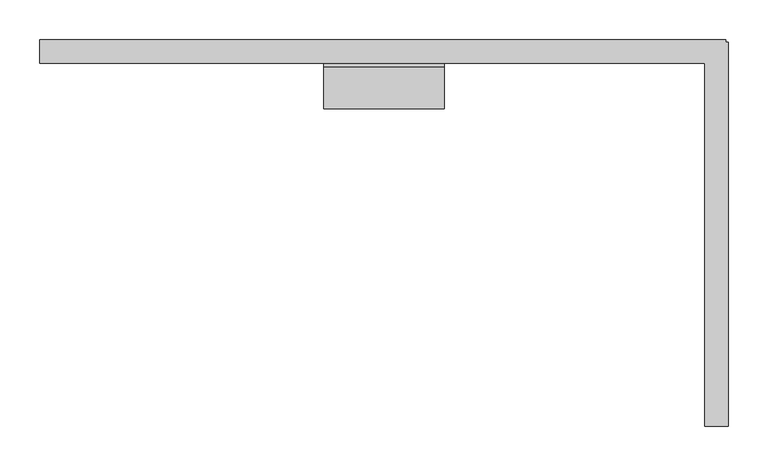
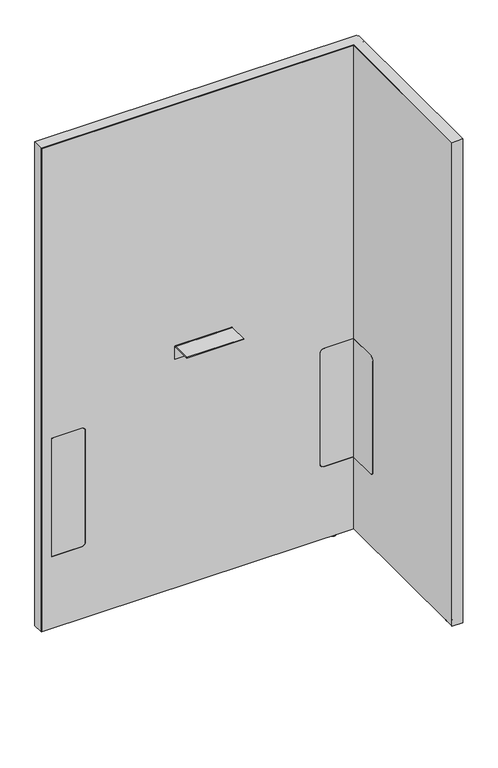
"""IFC4 building model written with IfcOpenShell, lengths in millimetres: furniture geometry, Steelcase - Answer Solution - Boundary Screen - L Return - Single Sided : 54H x 33W."""

import ifcopenshell
import ifcopenshell.guid

model = None  # the IFC model being written
_history = None  # IfcOwnerHistory: only IFC2X3 demands one
_inside = {}  # id of a spatial element -> (the spatial element, [elements in it])
_under = {}  # id of a project, library or spatial element -> (it, [spatial elements below it])
_declared = {}  # id of a project -> (the project, [libraries it declares])
_typed = {}  # id of a type object -> (the type object, [elements of that type])
_made_of = {}  # id of a material, layer set ... -> (it, [elements and type objects made of it])


def new_model(schema):
    """Start an empty IFC model of exactly this schema.

    Asked for "IFC4X3", IfcOpenShell would pick the latest addendum, in which some entities
    have other attributes; the version numbers below select the first issue.
    IFC2X3 requires an IfcOwnerHistory on every rooted entity: one is made here for all.
    """
    global model, _history
    if schema == "IFC4X3":
        model = ifcopenshell.file(schema_version=(4, 3, 0, 0))
    else:
        model = ifcopenshell.file(schema=schema)
    _inside.clear()
    _under.clear()
    _declared.clear()
    _typed.clear()
    _made_of.clear()
    _history = None
    if model.schema == "IFC2X3":
        org = make("IfcOrganization", Name="unknown")
        user = make(
            "IfcPersonAndOrganization",
            ThePerson=make("IfcPerson", FamilyName="unknown"),
            TheOrganization=org,
        )
        app = make(
            "IfcApplication",
            ApplicationDeveloper=org,
            Version="unknown",
            ApplicationFullName="unknown",
            ApplicationIdentifier="unknown",
        )
        _history = make(
            "IfcOwnerHistory",
            OwningUser=user,
            OwningApplication=app,
            ChangeAction="ADDED",
            CreationDate=0,
        )
    return model


def make(cls, **values):
    """One entity of the class cls with the attributes given. An attribute that is None is left unset."""
    return model.create_entity(
        cls, **{name: value for name, value in values.items() if value is not None}
    )


def rooted(cls, **values):
    """An entity with a GlobalId (a new one), such as an element, a storey or a relation."""
    return make(cls, GlobalId=ifcopenshell.guid.new(), OwnerHistory=_history, **values)


def si_unit(unit_type, name, prefix=None):
    """IfcSIUnit, for example si_unit("LENGTHUNIT", "METRE", prefix="MILLI")."""
    return make("IfcSIUnit", UnitType=unit_type, Prefix=prefix, Name=name)


def assignment(units):
    """IfcUnitAssignment: the units of a project."""
    return None if units is None else make("IfcUnitAssignment", Units=units)


def point(xyz):
    """IfcCartesianPoint."""
    return None if xyz is None else make("IfcCartesianPoint", Coordinates=xyz)


def direction(xyz):
    """IfcDirection."""
    return None if xyz is None else make("IfcDirection", DirectionRatios=xyz)


def frame(location, z_axis=None, x_axis=None):
    """IfcAxis2Placement3D, a coordinate frame: its origin and axes. An axis left out is left unset."""
    return make(
        "IfcAxis2Placement3D",
        Location=point(location),
        Axis=direction(z_axis),
        RefDirection=direction(x_axis),
    )


def frame_2d(location, x_axis=None):
    """IfcAxis2Placement2D, a coordinate frame in the plane: its origin and x axis."""
    return make(
        "IfcAxis2Placement2D", Location=point(location), RefDirection=direction(x_axis)
    )


def origin():
    """The frame at (0, 0, 0) with its axes left unset."""
    return frame((0.0, 0.0, 0.0))


def place(relative_to, where):
    """IfcLocalPlacement: puts the frame where relative to a parent placement (None: the world)."""
    return make(
        "IfcLocalPlacement", PlacementRelTo=relative_to, RelativePlacement=where
    )


def context(
    kind, dimensions, precision=None, world=None, true_north=None, identifier=None
):
    """IfcGeometricRepresentationContext, for example the 3D "Model" context."""
    return make(
        "IfcGeometricRepresentationContext",
        ContextIdentifier=identifier,
        ContextType=kind,
        CoordinateSpaceDimension=dimensions,
        Precision=precision,
        WorldCoordinateSystem=world,
        TrueNorth=true_north,
    )


def project(units=None, contexts=None):
    """IfcProject with its units and contexts."""
    return rooted(
        "IfcProject",
        Name="project",
        RepresentationContexts=contexts,
        UnitsInContext=assignment(units),
    )


def spatial(cls, under=None, at=None, **own):
    """A site, building, storey or space (cls), placed at a placement, below another one or the project."""
    s = rooted(cls, ObjectPlacement=at, **own)
    if under is not None:
        _under.setdefault(under.id(), (under, []))[1].append(s)
    return s


def polyline(points):
    """IfcPolyline through the points."""
    return make("IfcPolyline", Points=[point(p) for p in points])


def circle_curve(where, radius):
    """IfcCircle in the frame where."""
    return make("IfcCircle", Position=where, Radius=radius)


def ellipse_curve(where, semi_axis1, semi_axis2):
    """IfcEllipse in the frame where."""
    return make(
        "IfcEllipse", Position=where, SemiAxis1=semi_axis1, SemiAxis2=semi_axis2
    )


def trimmed(basis, trim1, trim2, sense, master):
    """IfcTrimmedCurve: the piece of a basis curve between two trims."""
    return make(
        "IfcTrimmedCurve",
        BasisCurve=basis,
        Trim1=trim1,
        Trim2=trim2,
        SenseAgreement=sense,
        MasterRepresentation=master,
    )


def segment(curve, same_sense, transition):
    """IfcCompositeCurveSegment."""
    return make(
        "IfcCompositeCurveSegment",
        Transition=transition,
        SameSense=same_sense,
        ParentCurve=curve,
    )


def composite_curve(segments, self_intersect=None):
    """IfcCompositeCurve: segments joined end to end."""
    return make("IfcCompositeCurve", Segments=segments, SelfIntersect=self_intersect)


def outline(outer, holes=None, kind="AREA"):
    """IfcArbitraryClosedProfileDef: a profile drawn as a closed curve; with holes, ...WithVoids."""
    if holes is None:
        return make("IfcArbitraryClosedProfileDef", ProfileType=kind, OuterCurve=outer)
    return make(
        "IfcArbitraryProfileDefWithVoids",
        ProfileType=kind,
        OuterCurve=outer,
        InnerCurves=holes,
    )


def extrude(swept, where, along, depth):
    """IfcExtrudedAreaSolid: the profile swept, set in the frame where, extruded along a direction by depth."""
    return make(
        "IfcExtrudedAreaSolid",
        SweptArea=swept,
        Position=where,
        ExtrudedDirection=direction(along),
        Depth=depth,
    )


def faces_of(points, faces, orient=None, outer=None):
    """IfcFace entities. A face is a list of loops; a loop is a list of indices into points, from 0.

    orient and outer hold one flag for each loop. By default every Orientation is true, the
    first loop of a face is its IfcFaceOuterBound and the others are IfcFaceBound.
    """
    made = []
    for i, loops in enumerate(faces):
        bounds = []
        for j, loop in enumerate(loops):
            is_outer = j == 0 if outer is None else outer[i][j]
            bounds.append(
                make(
                    "IfcFaceOuterBound" if is_outer else "IfcFaceBound",
                    Bound=make("IfcPolyLoop", Polygon=[points[k] for k in loop]),
                    Orientation=True if orient is None else orient[i][j],
                )
            )
        made.append(make("IfcFace", Bounds=bounds))
    return made


def faceted_brep(points, faces, orient=None, outer=None, voids=None):
    """IfcFacetedBrep: a solid bounded by flat faces; with voids (closed shells), ...WithVoids."""
    shared = [point(p) for p in points]
    hull = make("IfcClosedShell", CfsFaces=faces_of(shared, faces, orient, outer))
    if voids is None:
        return make("IfcFacetedBrep", Outer=hull)
    return make(
        "IfcFacetedBrepWithVoids",
        Outer=hull,
        Voids=[
            make(cls, CfsFaces=faces_of(shared, fs, o, b)) for cls, fs, o, b in voids
        ],
    )


def shape(context_of_items, identifier, shape_type, items):
    """IfcShapeRepresentation: the items that make up one representation, for example the "Body"."""
    return make(
        "IfcShapeRepresentation",
        ContextOfItems=context_of_items,
        RepresentationIdentifier=identifier,
        RepresentationType=shape_type,
        Items=items,
    )


def source(mapping_origin, context_of_items, identifier, shape_type, items):
    """IfcRepresentationMap: a shape defined once, which mapped items show again and again."""
    return make(
        "IfcRepresentationMap",
        MappingOrigin=mapping_origin,
        MappedRepresentation=shape(context_of_items, identifier, shape_type, items),
    )


def transform(
    local_origin,
    x_axis=None,
    y_axis=None,
    z_axis=None,
    scale=None,
    scale2=None,
    scale3=None,
    uniform=True,
):
    """IfcCartesianTransformationOperator3D, or its non-uniform kind. x_axis, y_axis, z_axis: its Axis1, 2, 3."""
    if uniform:
        return make(
            "IfcCartesianTransformationOperator3D",
            Axis1=direction(x_axis),
            Axis2=direction(y_axis),
            LocalOrigin=point(local_origin),
            Scale=scale,
            Axis3=direction(z_axis),
        )
    return make(
        "IfcCartesianTransformationOperator3DnonUniform",
        Axis1=direction(x_axis),
        Axis2=direction(y_axis),
        LocalOrigin=point(local_origin),
        Scale=scale,
        Axis3=direction(z_axis),
        Scale2=scale2,
        Scale3=scale3,
    )


def mapped(mapping_source, mapping_target):
    """IfcMappedItem: shows the shape of a source again, moved by a transform."""
    return make(
        "IfcMappedItem", MappingSource=mapping_source, MappingTarget=mapping_target
    )


def made_of(thing, what):
    """Note that an element or type object is made of a material, layer set ...; save() writes the relation."""
    if what is not None:
        _made_of.setdefault(what.id(), (what, []))[1].append(thing)
    return thing


def element(
    cls,
    number,
    at=None,
    inside=None,
    cuts=None,
    type_object=None,
    material=None,
    context=None,
    identifier="Body",
    shape_type=None,
    held_by="IfcProductDefinitionShape",
    body=None,
    shapes=None,
    **own,
):
    """One element of the class cls, such as IfcWall. Its Tag is "e" and its number.

    at: its placement. inside: the storey or other place that contains it. cuts: it is an
    opening in that element (IfcRelVoidsElement). A single representation is given by context,
    identifier, shape_type and body (its items); several are given by shapes. held_by: the class
    of the entity that holds the representations. save() writes the other relations.
    """
    e = rooted(cls, Tag="e%d" % number, ObjectPlacement=at, **own)
    if body is not None:
        shapes = [shape(context, identifier, shape_type, body)]
    if shapes is not None:
        e.Representation = make(held_by, Representations=shapes)
    if inside is not None:
        _inside.setdefault(inside.id(), (inside, []))[1].append(e)
    if cuts is not None:
        rooted(
            "IfcRelVoidsElement", RelatingBuildingElement=cuts, RelatedOpeningElement=e
        )
    if type_object is not None:
        _typed.setdefault(type_object.id(), (type_object, []))[1].append(e)
    return made_of(e, material)


def aggregate(whole, parts):
    """IfcRelAggregates: a whole, such as a stair, and the parts it consists of."""
    return rooted("IfcRelAggregates", RelatingObject=whole, RelatedObjects=parts)


def save(model, path):
    """Write the relations noted so far, then the file.

    IfcRelAggregates (storeys below a building ...), IfcRelContainedInSpatialStructure (elements
    in a storey), IfcRelDefinesByType, IfcRelAssociatesMaterial and IfcRelDeclares: one each for
    every whole, place, type object, material and project.
    """
    for whole, parts in _under.values():
        aggregate(whole, parts)
    for where, things in _inside.values():
        rooted(
            "IfcRelContainedInSpatialStructure",
            RelatedElements=things,
            RelatingStructure=where,
        )
    for kind, things in _typed.values():
        rooted("IfcRelDefinesByType", RelatedObjects=things, RelatingType=kind)
    for what, things in _made_of.values():
        rooted("IfcRelAssociatesMaterial", RelatedObjects=things, RelatingMaterial=what)
    for by, libraries in _declared.values():
        rooted("IfcRelDeclares", RelatingContext=by, RelatedDefinitions=libraries)
    model.write(path)


def plane_surface(at):
    """IfcPlane: the flat surface through the origin of the frame at, square to its z axis."""
    return make("IfcPlane", Position=at)


def cylinder_surface(at, radius):
    """IfcCylindricalSurface: all points at the distance radius from the z axis of the frame at."""
    return make("IfcCylindricalSurface", Position=at, Radius=radius)


def revolved_surface(curve, axis_point, axis_direction):
    """IfcSurfaceOfRevolution: the curve turned about the line through axis_point along axis_direction."""
    return make(
        "IfcSurfaceOfRevolution",
        SweptCurve=make("IfcArbitraryOpenProfileDef", ProfileType="CURVE", Curve=curve),
        AxisPosition=make("IfcAxis1Placement", Location=point(axis_point), Axis=direction(axis_direction)),
    )


def advanced_brep(points, edges, surfaces, faces):
    """IfcAdvancedBrep: a solid bounded by faces that lie on surfaces and meet in shared edges.

    An edge is (start, end): straight between two places in points (the first is 0);
    or (start, end, curve); or (start, end, curve, False) where it runs against its curve.
    A face is (place in surfaces, loops), or (place, loops, False) where it looks against
    its surface's normal. A loop lists edges by number (the first is 1), with a minus sign
    where the edge is run from its end to its start. The first loop is the outer one.
    """
    corners = [point(p) for p in points]
    vertices = [make("IfcVertexPoint", VertexGeometry=c) for c in corners]
    made = []
    for start, end, *more in edges:
        made.append(
            make(
                "IfcEdgeCurve",
                EdgeStart=vertices[start],
                EdgeEnd=vertices[end],
                EdgeGeometry=more[0] if more else make("IfcPolyline", Points=[corners[start], corners[end]]),
                SameSense=more[1] if len(more) > 1 else True,
            )
        )
    hull = []
    for where, loops, *sense in faces:
        bounds = []
        for j, loop in enumerate(loops):
            ring = [make("IfcOrientedEdge", EdgeElement=made[abs(k) - 1], Orientation=k > 0) for k in loop]
            bounds.append(
                make(
                    "IfcFaceOuterBound" if j == 0 else "IfcFaceBound",
                    Bound=make("IfcEdgeLoop", EdgeList=ring),
                    Orientation=True,
                )
            )
        hull.append(make("IfcAdvancedFace", Bounds=bounds, FaceSurface=surfaces[where], SameSense=sense[0] if sense else True))
    return make("IfcAdvancedBrep", Outer=make("IfcClosedShell", CfsFaces=hull))


def furniture_dfa59bc5(model_context):
    return source(origin(), model_context, "Body", "SolidModel", [
        extrude(outline(composite_curve([segment(polyline([(-109.3501471, 549.6162029), (-29.0550397, 549.6162029), (-29.0550397, 213.7762137), (-109.3501471, 213.7762137)]), True, "CONTINUOUS"), segment(trimmed(circle_curve(frame_2d((-109.3501471, 223.9362137)), 10.16), [point((-109.3501471, 213.7762137))], [point((-119.5101471, 223.9362137))], False, "CARTESIAN"), True, "CONTINUOUS"), segment(polyline([(-119.5101471, 223.9362137), (-119.5101471, 539.4562029)]), True, "CONTINUOUS"), segment(trimmed(circle_curve(frame_2d((-109.3501471, 539.4562029)), 10.16), [point((-119.5101471, 539.4562029))], [point((-109.3501471, 549.6162029))], False, "CARTESIAN"), True, "CONTINUOUS")], self_intersect=False)), frame((1068.0191891, 0.0, 0.0), z_axis=(1.0, 0.0, 0.0), x_axis=(0.0, 1.0, 0.0)), (0.0, 0.0, 1.0), 0.6401544),
        advanced_brep(
        [(1082.8672074, -448.0136072, 0.0), (1089.8216144, -448.0136072, 0.0), (1075.9128003, -448.0136072, 0.0), (1091.2762685, -448.0136072, 1.2700001), (1074.4581463, -448.0136072, 1.2700001), (1091.2762685, -448.0136072, 2.9673238), (1074.4581463, -448.0136072, 2.9673238), (1092.2427877, -448.0136072, 2.9673238), (1073.491627, -448.0136072, 2.9673238), (1092.2427877, -448.0136072, 9.9059849), (1073.491627, -448.0136072, 9.9059849), (1082.8672074, -448.0136072, 9.9059849)],
        [
            (0, 1),
            (1, 2, circle_curve(frame((1082.8672074, -448.0136072, 0.0), z_axis=(0.0, 0.0, -1.0), x_axis=(1.0, 0.0, 0.0)), 6.9544071)),
            (2, 0),
            (2, 1, circle_curve(frame((1082.8672074, -448.0136072, 0.0), z_axis=(0.0, 0.0, -1.0), x_axis=(1.0, 0.0, 0.0)), 6.9544071)),
            (1, 3, circle_curve(frame((1089.9945484, -448.0136072, 1.2700001), z_axis=(0.0, -1.0, 0.0), x_axis=(0.0, 0.0, 1.0)), 1.2817201)),
            (3, 4, circle_curve(frame((1082.8672074, -448.0136072, 1.2700001), z_axis=(0.0, 0.0, -1.0), x_axis=(1.0, 0.0, 0.0)), 8.4090611)),
            (4, 2, circle_curve(frame((1075.7398663, -448.0136072, 1.2700001), z_axis=(0.0, -1.0, 0.0), x_axis=(0.0, 0.0, 1.0)), 1.2817201)),
            (4, 3, circle_curve(frame((1082.8672074, -448.0136072, 1.2700001), z_axis=(0.0, 0.0, -1.0), x_axis=(1.0, 0.0, 0.0)), 8.4090611)),
            (3, 5),
            (5, 6, circle_curve(frame((1082.8672074, -448.0136072, 2.9673238), z_axis=(0.0, 0.0, -1.0), x_axis=(1.0, 0.0, 0.0)), 8.4090611)),
            (6, 4),
            (6, 5, circle_curve(frame((1082.8672074, -448.0136072, 2.9673238), z_axis=(0.0, 0.0, -1.0), x_axis=(1.0, 0.0, 0.0)), 8.4090611)),
            (5, 7),
            (7, 8, circle_curve(frame((1082.8672074, -448.0136072, 2.9673238), z_axis=(0.0, 0.0, -1.0), x_axis=(1.0, 0.0, 0.0)), 9.3755804)),
            (8, 6),
            (8, 7, circle_curve(frame((1082.8672074, -448.0136072, 2.9673238), z_axis=(0.0, 0.0, -1.0), x_axis=(1.0, 0.0, 0.0)), 9.3755804)),
            (7, 9),
            (9, 10, circle_curve(frame((1082.8672074, -448.0136072, 9.9059849), z_axis=(0.0, 0.0, -1.0), x_axis=(1.0, 0.0, 0.0)), 9.3755804)),
            (10, 8),
            (10, 9, circle_curve(frame((1082.8672074, -448.0136072, 9.9059849), z_axis=(0.0, 0.0, -1.0), x_axis=(1.0, 0.0, 0.0)), 9.3755804)),
            (9, 11),
            (11, 10),
        ],
        [
            plane_surface(frame((1082.8672074, -448.0136072, 0.0), z_axis=(0.0, 0.0, -1.0), x_axis=(1.0, 0.0, 0.0))),
            revolved_surface(trimmed(ellipse_curve(frame((1089.9945484, -448.0136072, 1.2700001), z_axis=(0.0, 1.0, 0.0), x_axis=(0.0, 0.0, 1.0)), 1.2817201, 1.2817201), [point((1091.2762685, -448.0136072, 1.2700001))], [point((1089.8216144, -448.0136072, 0.0))], True, "CARTESIAN"), (1082.8672074, -448.0136072, 9.9059849), (0.0, 0.0, -1.0)),
            cylinder_surface(frame((1082.8672074, -448.0136072, 9.9059849), z_axis=(0.0, 0.0, -1.0), x_axis=(1.0, 0.0, 0.0)), 8.4090611),
            plane_surface(frame((1082.8672074, -448.0136072, 2.9673238), z_axis=(0.0, 0.0, -1.0), x_axis=(1.0, 0.0, 0.0))),
            cylinder_surface(frame((1082.8672074, -448.0136072, 9.9059849), z_axis=(0.0, 0.0, -1.0), x_axis=(1.0, 0.0, 0.0)), 9.3755804),
            plane_surface(frame((1082.8672074, -448.0136072, 9.9059849), z_axis=(0.0, 0.0, 1.0), x_axis=(1.0, 0.0, 0.0))),
        ],
        [
            (0, [[1, 2, 3]]),
            (0, [[-3, 4, -1]]),
            (1, [[-2, 5, 6, 7]]),
            (1, [[-4, -7, 8, -5]]),
            (2, [[-6, 9, 10, 11]]),
            (2, [[-8, -11, 12, -9]]),
            (3, [[-10, 13, 14, 15]]),
            (3, [[-12, -15, 16, -13]]),
            (4, [[-14, 17, 18, 19]]),
            (4, [[-16, -19, 20, -17]]),
            (5, [[-18, 21, 22]]),
            (5, [[-20, -22, -21]]),
        ],
    ),
        faceted_brep([(1094.4531179, 0.0, 1382.522), (1094.4531179, 0.0, 9.9059849), (1093.4621491, 0.0, 9.9059849), (1093.4621491, 0.0, 1381.542118), (230.8097779, 0.0, 1381.542118), (230.8097779, 0.0, 9.9059849), (229.8191891, 0.0, 9.9059849), (229.8191891, 0.0, 1382.522), (229.8191891, -29.6898332, 1382.522), (229.8191891, -29.6898332, 9.9059849), (230.8097779, -29.6898332, 9.9059849), (230.8097779, -29.6898332, 1381.542118), (1068.0191891, -29.6898332, 1381.542118), (1068.0191891, -29.6898332, 1382.522), (1093.4621491, -29.6898332, 1381.542118), (1093.4621491, -29.6898332, 9.9059849), (1094.4531179, -29.6898332, 9.9059849), (1094.4531179, -29.6898332, 1381.542118), (1094.4531179, -3.2625916, 1382.522), (1094.4531179, -3.2625916, 9.9059849), (1094.4531179, -4.252647, 9.9059849), (1094.4531179, -4.252647, 1381.542118), (1097.7152256, -3.2625916, 9.9059849), (1097.7152256, -4.252647, 9.9059849), (1093.4621491, -4.252647, 9.9059849), (1068.0191891, -4.252647, 9.9059849), (1068.0191891, -3.2625916, 9.9059849), (1093.4621491, -3.2625916, 9.9059849), (1068.0191891, -486.8898332, 1382.522), (1097.7152256, -486.8898332, 1382.522), (1097.7152256, -3.2625916, 1382.522), (1093.4621491, -3.2625916, 1381.542118), (1093.4621491, -4.252647, 1381.542118), (1068.0191891, -3.2625916, 1381.542118), (1068.0191891, -4.252647, 1381.542118), (1097.7152256, -4.252647, 1381.542118), (1097.7152256, -485.899196, 1381.542118), (1068.0191891, -485.899196, 1381.542118), (1068.0191891, -485.899196, 9.9059849), (1068.0191891, -486.8898332, 9.9059849), (1097.7152256, -486.8898332, 9.9059849), (1097.7152256, -485.899196, 9.9059849)], [[[0, 1, 2, 3, 4, 5, 6, 7]], [[8, 9, 10, 11, 12, 13]], [[14, 15, 16, 17]], [[1, 0, 18, 19]], [[17, 16, 20, 21]], [[2, 1, 19, 22, 23, 20, 16, 15, 24, 25, 26, 27]], [[7, 6, 9, 8]], [[0, 7, 8, 13, 28, 29, 30, 18]], [[3, 2, 27, 31]], [[15, 14, 32, 24]], [[4, 3, 31, 33, 34, 32, 14, 17, 21, 35, 36, 37, 12, 11]], [[5, 4, 11, 10]], [[6, 5, 10, 9]], [[26, 25, 34, 33]], [[37, 38, 39, 28, 13, 12]], [[29, 40, 41, 36, 35, 23, 22, 30]], [[27, 26, 33, 31]], [[30, 22, 19, 18]], [[34, 25, 24, 32]], [[23, 35, 21, 20]], [[38, 37, 36, 41]], [[39, 38, 41, 40]], [[28, 39, 40, 29]]]),
        extrude(outline(composite_curve([segment(polyline([(-86.8398151, 696.4680019), (-86.8398151, 698.5), (-34.9450855, 698.5)]), True, "CONTINUOUS"), segment(trimmed(circle_curve(frame_2d((-34.9450855, 693.2447477)), 5.2552523), [point((-34.9450855, 698.5))], [point((-29.6898332, 693.2447477))], False, "CARTESIAN"), True, "CONTINUOUS"), segment(polyline([(-29.6898332, 693.2447477), (-29.6898332, 660.4), (-31.7218162, 660.4), (-31.7218162, 693.0058743)]), True, "CONTINUOUS"), segment(trimmed(circle_curve(frame_2d((-35.1839438, 693.0058743)), 3.4621276), [point((-31.7218162, 693.0058743))], [point((-35.1839438, 696.4680019))], True, "CARTESIAN"), True, "CONTINUOUS"), segment(polyline([(-35.1839438, 696.4680019), (-86.8398151, 696.4680019)]), True, "CONTINUOUS")], self_intersect=False)), frame((587.5685899, 0.0, 0.0), z_axis=(1.0, 0.0, 0.0), x_axis=(0.0, 1.0, 0.0)), (0.0, 0.0, 1.0), 152.4000969),
        advanced_brep(
        [(1020.5246853, -23.7588726, 9.9059849), (1020.5246853, -5.9309607, 9.9059849), (1020.5246853, -14.8449166, 9.9059849), (1020.5246853, -23.7588726, 2.9673238), (1020.5246853, -5.9309607, 2.9673238), (1020.5246853, -22.7915354, 2.9673238), (1020.5246853, -6.8982978, 2.9673238), (1020.5246853, -22.7915354, 1.6569081), (1020.5246853, -6.8982978, 1.6569081), (1020.5246853, -21.1346274, 0.0), (1020.5246853, -8.5552059, 0.0), (1020.5246853, -14.8449166, 0.0)],
        [
            (0, 1, circle_curve(frame((1020.5246853, -14.8449166, 9.9059849), z_axis=(0.0, 0.0, 1.0), x_axis=(0.0, 1.0, 0.0)), 8.913956)),
            (1, 2),
            (2, 0),
            (1, 0, circle_curve(frame((1020.5246853, -14.8449166, 9.9059849), z_axis=(0.0, 0.0, 1.0), x_axis=(0.0, 1.0, 0.0)), 8.913956)),
            (3, 4, circle_curve(frame((1020.5246853, -14.8449166, 2.9673238), z_axis=(0.0, 0.0, 1.0), x_axis=(0.0, 1.0, 0.0)), 8.913956)),
            (4, 1),
            (0, 3),
            (4, 3, circle_curve(frame((1020.5246853, -14.8449166, 2.9673238), z_axis=(0.0, 0.0, 1.0), x_axis=(0.0, 1.0, 0.0)), 8.913956)),
            (5, 6, circle_curve(frame((1020.5246853, -14.8449166, 2.9673238), z_axis=(0.0, 0.0, 1.0), x_axis=(0.0, 1.0, 0.0)), 7.9466188)),
            (6, 4),
            (3, 5),
            (6, 5, circle_curve(frame((1020.5246853, -14.8449166, 2.9673238), z_axis=(0.0, 0.0, 1.0), x_axis=(0.0, 1.0, 0.0)), 7.9466188)),
            (7, 8, circle_curve(frame((1020.5246853, -14.8449166, 1.6569081), z_axis=(0.0, 0.0, 1.0), x_axis=(0.0, 1.0, 0.0)), 7.9466188)),
            (8, 6),
            (5, 7),
            (8, 7, circle_curve(frame((1020.5246853, -14.8449166, 1.6569081), z_axis=(0.0, 0.0, 1.0), x_axis=(0.0, 1.0, 0.0)), 7.9466188)),
            (9, 10, circle_curve(frame((1020.5246853, -14.8449166, 0.0), z_axis=(0.0, 0.0, 1.0), x_axis=(0.0, 1.0, 0.0)), 6.2897107)),
            (10, 8, circle_curve(frame((1020.5246853, -8.5552059, 1.6569081), z_axis=(1.0, 0.0, 0.0), x_axis=(0.0, 1.0, 0.0)), 1.6569081)),
            (7, 9, circle_curve(frame((1020.5246853, -21.1346274, 1.6569081), z_axis=(1.0, 0.0, 0.0), x_axis=(0.0, -1.0, 0.0)), 1.6569081)),
            (10, 9, circle_curve(frame((1020.5246853, -14.8449166, 0.0), z_axis=(0.0, 0.0, 1.0), x_axis=(0.0, 1.0, 0.0)), 6.2897107)),
            (11, 10),
            (9, 11),
        ],
        [
            plane_surface(frame((1020.5246853, -14.8449166, 9.9059849), z_axis=(0.0, 0.0, 1.0), x_axis=(0.0, 1.0, 0.0))),
            cylinder_surface(frame((1020.5246853, -14.8449166, 9.9059849), z_axis=(0.0, 0.0, -1.0), x_axis=(0.0, 1.0, 0.0)), 8.913956),
            plane_surface(frame((1020.5246853, -14.8449166, 2.9673238), z_axis=(0.0, 0.0, -1.0), x_axis=(0.0, 1.0, 0.0))),
            cylinder_surface(frame((1020.5246853, -14.8449166, 9.9059849), z_axis=(0.0, 0.0, -1.0), x_axis=(0.0, 1.0, 0.0)), 7.9466188),
            revolved_surface(trimmed(ellipse_curve(frame((1020.5246853, -8.5552059, 1.6569081), z_axis=(-1.0, 0.0, 0.0), x_axis=(0.0, 1.0, 0.0)), 1.6569081, 1.6569081), [point((1020.5246853, -6.8982978, 1.6569081))], [point((1020.5246853, -8.5552059, 0.0))], True, "CARTESIAN"), (1020.5246853, -14.8449166, 9.9059849), (0.0, 0.0, -1.0)),
            plane_surface(frame((1020.5246853, -14.8449166, 0.0), z_axis=(0.0, 0.0, -1.0), x_axis=(0.0, 1.0, 0.0))),
        ],
        [
            (0, [[1, 2, 3]]),
            (0, [[4, -3, -2]]),
            (1, [[5, 6, -1, 7]]),
            (1, [[8, -7, -4, -6]]),
            (2, [[9, 10, -5, 11]]),
            (2, [[12, -11, -8, -10]]),
            (3, [[13, 14, -9, 15]]),
            (3, [[16, -15, -12, -14]]),
            (4, [[17, 18, -13, 19]]),
            (4, [[20, -19, -16, -18]]),
            (5, [[21, -17, 22]]),
            (5, [[-22, -20, -21]]),
        ],
    ),
        advanced_brep(
        [(230.8097779, 0.0, 1381.542118), (1093.4621491, 0.0, 1381.542118), (1093.4621491, 0.0, 9.9059849), (230.8097779, 0.0, 9.9059849), (347.9483813, -29.0550397, 539.4562029), (337.7883813, -29.0550397, 549.6162029), (258.1344836, -29.0550397, 549.6162029), (258.1344836, -29.0550397, 213.7762137), (337.7883813, -29.0550397, 213.7762137), (347.9483813, -29.0550397, 223.9362137), (1068.6593435, -29.0550397, 213.7762137), (1068.6593435, -29.0550397, 549.6162029), (988.1109268, -29.0550397, 549.6162029), (977.9509268, -29.0550397, 539.4562029), (977.9509268, -29.0550397, 223.9362137), (988.1109268, -29.0550397, 213.7762137), (230.8097779, -29.6898332, 1381.542118), (230.8097779, -29.6898332, 9.9059849), (1068.0191891, -29.6898332, 9.9059849), (1068.0191891, -29.6898332, 213.7762137), (988.1109268, -29.6898332, 213.7762137), (977.9509268, -29.6898332, 223.9362137), (977.9509268, -29.6898332, 539.4562029), (988.1109268, -29.6898332, 549.6162029), (1068.0191891, -29.6898332, 549.6162029), (1068.0191891, -29.6898332, 1381.542118), (337.7883813, -29.6898332, 549.6162029), (347.9483813, -29.6898332, 539.4562029), (347.9483813, -29.6898332, 223.9362137), (337.7883813, -29.6898332, 213.7762137), (258.1344836, -29.6898332, 213.7762137), (258.1344836, -29.6898332, 549.6162029), (1093.4621491, -4.252647, 9.9059849), (1097.7152256, -4.252647, 9.9059849), (1097.7152256, -485.899196, 9.9059849), (1068.0191891, -485.899196, 9.9059849), (1093.4621491, -4.252647, 1381.542118), (1068.0191891, -485.899196, 1381.542118), (1097.7152256, -485.899196, 1381.542118), (1097.7152256, -4.252647, 1381.542118), (1068.6593435, -109.3501471, 549.6162029), (1068.0191891, -109.3501471, 549.6162029), (1068.6593435, -109.3501471, 213.7762137), (1068.6593435, -119.5101471, 223.9362137), (1068.6593435, -119.5101471, 539.4562029), (1068.0191891, -109.3501471, 213.7762137), (1068.0191891, -119.5101471, 539.4562029), (1068.0191891, -119.5101471, 223.9362137)],
        [
            (0, 1),
            (1, 2),
            (2, 3),
            (3, 0),
            (4, 5, circle_curve(frame((337.7883813, -29.0550397, 539.4562029), z_axis=(0.0, -1.0, 0.0), x_axis=(0.0, 0.0, 1.0)), 10.16)),
            (5, 6),
            (6, 7),
            (7, 8),
            (8, 9, circle_curve(frame((337.7883813, -29.0550397, 223.9362137), z_axis=(0.0, -1.0, 0.0), x_axis=(0.0, 0.0, 1.0)), 10.16)),
            (9, 4),
            (10, 11),
            (11, 12),
            (12, 13, circle_curve(frame((988.1109268, -29.0550397, 539.4562029), z_axis=(0.0, -1.0, 0.0), x_axis=(0.0, 0.0, 1.0)), 10.16)),
            (13, 14),
            (14, 15, circle_curve(frame((988.1109268, -29.0550397, 223.9362137), z_axis=(0.0, -1.0, 0.0), x_axis=(0.0, 0.0, 1.0)), 10.16)),
            (15, 10),
            (16, 17),
            (17, 18),
            (18, 19),
            (19, 20),
            (20, 21, circle_curve(frame((988.1109268, -29.6898332, 223.9362137), z_axis=(0.0, 1.0, 0.0), x_axis=(0.0, 0.0, 1.0)), 10.16)),
            (21, 22),
            (22, 23, circle_curve(frame((988.1109268, -29.6898332, 539.4562029), z_axis=(0.0, 1.0, 0.0), x_axis=(0.0, 0.0, 1.0)), 10.16)),
            (23, 24),
            (24, 25),
            (25, 16),
            (26, 27, circle_curve(frame((337.7883813, -29.6898332, 539.4562029), z_axis=(0.0, 1.0, 0.0), x_axis=(0.0, 0.0, 1.0)), 10.16)),
            (27, 28),
            (28, 29, circle_curve(frame((337.7883813, -29.6898332, 223.9362137), z_axis=(0.0, 1.0, 0.0), x_axis=(0.0, 0.0, 1.0)), 10.16)),
            (29, 30),
            (30, 31),
            (31, 26),
            (16, 0),
            (3, 17),
            (2, 32),
            (32, 33),
            (33, 34),
            (34, 35),
            (35, 18),
            (1, 36),
            (36, 32),
            (25, 37),
            (37, 38),
            (38, 39),
            (39, 36),
            (26, 5),
            (4, 27),
            (9, 28),
            (8, 29),
            (7, 30),
            (6, 31),
            (11, 40),
            (40, 41),
            (41, 24),
            (23, 12),
            (42, 43, circle_curve(frame((1068.6593435, -109.3501471, 223.9362137), z_axis=(-1.0, 0.0, 0.0), x_axis=(0.0, 1.0, 0.0)), 10.16)),
            (43, 44),
            (44, 40, circle_curve(frame((1068.6593435, -109.3501471, 539.4562029), z_axis=(-1.0, 0.0, 0.0), x_axis=(0.0, 1.0, 0.0)), 10.16)),
            (10, 42),
            (15, 20),
            (19, 45),
            (45, 42),
            (14, 21),
            (13, 22),
            (35, 37),
            (41, 46, circle_curve(frame((1068.0191891, -109.3501471, 539.4562029), z_axis=(1.0, 0.0, 0.0), x_axis=(0.0, 1.0, 0.0)), 10.16)),
            (46, 47),
            (47, 45, circle_curve(frame((1068.0191891, -109.3501471, 223.9362137), z_axis=(1.0, 0.0, 0.0), x_axis=(0.0, 1.0, 0.0)), 10.16)),
            (38, 34),
            (33, 39),
            (44, 46),
            (43, 47),
        ],
        [
            plane_surface(frame((347.9483813, 0.0, 549.6162029), z_axis=(0.0, 1.0, 0.0), x_axis=(0.0, 0.0, -1.0))),
            plane_surface(frame((347.9483813, -29.0550397, 549.6162029), z_axis=(0.0, -1.0, 0.0), x_axis=(0.0, 0.0, 1.0))),
            plane_surface(frame((1093.4621491, -29.6898332, 1381.542118), z_axis=(0.0, -1.0, 0.0), x_axis=(-1.0, 0.0, 0.0))),
            plane_surface(frame((230.8097779, 0.0, 9.9059849), z_axis=(-1.0, 0.0, 0.0), x_axis=(0.0, -1.0, 0.0))),
            plane_surface(frame((1093.4621491, 0.0, 9.9059849), z_axis=(0.0, 0.0, -1.0), x_axis=(0.0, -1.0, 0.0))),
            plane_surface(frame((1093.4621491, 0.0, 1381.542118), z_axis=(1.0, 0.0, 0.0), x_axis=(0.0, -1.0, 0.0))),
            plane_surface(frame((230.8097779, 0.0, 1381.542118), z_axis=(0.0, 0.0, 1.0), x_axis=(0.0, -1.0, 0.0))),
            revolved_surface(polyline([(337.7883813, -29.6898332, 549.6162029), (337.7883813, -29.0550397, 549.6162029)]), (337.7883813, -29.6898332, 539.4562029), (0.0, -1.0, 0.0)),
            plane_surface(frame((347.9483813, 0.0, 223.9362137), z_axis=(-1.0, 0.0, 0.0), x_axis=(0.0, -1.0, 0.0))),
            revolved_surface(polyline([(337.7883813, -29.6898332, 234.0962137), (337.7883813, -29.0550397, 234.0962137)]), (337.7883813, -29.6898332, 223.9362137), (0.0, -1.0, 0.0)),
            plane_surface(frame((258.1344836, 0.0, 213.7762137), z_axis=(0.0, 0.0, 1.0), x_axis=(0.0, -1.0, 0.0))),
            plane_surface(frame((258.1344836, 0.0, 549.6162029), z_axis=(1.0, 0.0, 0.0), x_axis=(0.0, -1.0, 0.0))),
            plane_surface(frame((337.7883813, 0.0, 549.6162029), z_axis=(0.0, 0.0, -1.0), x_axis=(0.0, -1.0, 0.0))),
            plane_surface(frame((1068.6593435, 0.0, 549.6162029), z_axis=(0.0, 0.0, -1.0), x_axis=(0.0, -1.0, 0.0))),
            plane_surface(frame((1068.6593435, 0.0, 213.7762137), z_axis=(-1.0, 0.0, 0.0), x_axis=(0.0, -1.0, 0.0))),
            plane_surface(frame((988.1109268, 0.0, 213.7762137), z_axis=(0.0, 0.0, 1.0), x_axis=(0.0, -1.0, 0.0))),
            revolved_surface(polyline([(988.1109268, -29.6898332, 234.0962137), (988.1109268, -29.0550397, 234.0962137)]), (988.1109268, -29.6898332, 223.9362137), (0.0, -1.0, 0.0)),
            plane_surface(frame((977.9509268, 0.0, 539.4562029), z_axis=(1.0, 0.0, 0.0), x_axis=(0.0, -1.0, 0.0))),
            revolved_surface(polyline([(988.1109268, -29.6898332, 549.6162029), (988.1109268, -29.0550397, 549.6162029)]), (988.1109268, -29.6898332, 539.4562029), (0.0, -1.0, 0.0)),
            plane_surface(frame((1068.0191891, -485.899196, 1381.542118), z_axis=(-1.0, 0.0, 0.0), x_axis=(0.0, 0.0, 1.0))),
            plane_surface(frame((1097.7152256, -485.899196, 1381.542118), z_axis=(1.0, 0.0, 0.0), x_axis=(0.0, 0.0, -1.0))),
            plane_surface(frame((1097.7152256, -4.252647, 9.9059849), z_axis=(0.0, 1.0, 0.0), x_axis=(-1.0, 0.0, 0.0))),
            plane_surface(frame((1097.7152256, -485.899196, 1381.542118), z_axis=(0.0, -1.0, 0.0), x_axis=(-1.0, 0.0, 0.0))),
            revolved_surface(polyline([(1068.0191891, -99.1901471, 539.4562029), (1068.6593435, -99.1901471, 539.4562029)]), (-340.6902705, -109.3501471, 539.4562029), (-1.0, 0.0, 0.0)),
            plane_surface(frame((1097.7152256, -119.5101471, 223.9362137), z_axis=(0.0, 1.0, 0.0), x_axis=(-1.0, 0.0, 0.0))),
            revolved_surface(polyline([(1068.0191891, -99.1901471, 223.9362137), (1068.6593435, -99.1901471, 223.9362137)]), (-340.6902705, -109.3501471, 223.9362137), (-1.0, 0.0, 0.0)),
        ],
        [
            (0, [[1, 2, 3, 4]]),
            (1, [[5, 6, 7, 8, 9, 10]]),
            (1, [[11, 12, 13, 14, 15, 16]]),
            (2, [[17, 18, 19, 20, 21, 22, 23, 24, 25, 26], [27, 28, 29, 30, 31, 32]]),
            (3, [[-17, 33, -4, 34]]),
            (4, [[-3, 35, 36, 37, 38, 39, -18, -34]]),
            (5, [[-2, 40, 41, -35]]),
            (6, [[-1, -33, -26, 42, 43, 44, 45, -40]]),
            (7, [[-27, 46, -5, 47]]),
            (8, [[-28, -47, -10, 48]]),
            (9, [[-29, -48, -9, 49]]),
            (10, [[-30, -49, -8, 50]]),
            (11, [[-31, -50, -7, 51]]),
            (12, [[-32, -51, -6, -46]]),
            (13, [[52, 53, 54, -24, 55, -12]]),
            (14, [[56, 57, 58, -52, -11, 59]]),
            (15, [[-59, -16, 60, -20, 61, 62]]),
            (16, [[-21, -60, -15, 63]]),
            (17, [[-22, -63, -14, 64]]),
            (18, [[-23, -64, -13, -55]]),
            (19, [[65, -42, -25, -54, 66, 67, 68, -61, -19, -39]]),
            (20, [[69, -37, 70, -44]]),
            (21, [[-70, -36, -41, -45]]),
            (22, [[-65, -38, -69, -43]]),
            (23, [[-66, -53, -58, 71]]),
            (24, [[-67, -71, -57, 72]]),
            (25, [[-68, -72, -56, -62]]),
        ],
    ),
        extrude(outline(composite_curve([segment(polyline([(549.6162029, 337.7883813), (549.6162029, 258.1344836), (213.7762137, 258.1344836), (213.7762137, 337.7883813)]), True, "CONTINUOUS"), segment(trimmed(circle_curve(frame_2d((223.9362137, 337.7883813)), 10.16), [point((213.7762137, 337.7883813))], [point((223.9362137, 347.9483813))], False, "CARTESIAN"), True, "CONTINUOUS"), segment(polyline([(223.9362137, 347.9483813), (539.4562029, 347.9483813)]), True, "CONTINUOUS"), segment(trimmed(circle_curve(frame_2d((539.4562029, 337.7883813)), 10.16), [point((539.4562029, 347.9483813))], [point((549.6162029, 337.7883813))], False, "CARTESIAN"), True, "CONTINUOUS")], self_intersect=False)), frame((0.0, -29.6898332, 0.0), z_axis=(0.0, 1.0, 0.0), x_axis=(0.0, 0.0, 1.0)), (0.0, 0.0, 1.0), 0.6347935),
        extrude(outline(composite_curve([segment(trimmed(circle_curve(frame_2d((539.4562029, 988.1109268)), 10.16), [point((549.6162029, 988.1109268))], [point((539.4562029, 977.9509268))], False, "CARTESIAN"), True, "CONTINUOUS"), segment(polyline([(539.4562029, 977.9509268), (223.9362137, 977.9509268)]), True, "CONTINUOUS"), segment(trimmed(circle_curve(frame_2d((223.9362137, 988.1109268)), 10.16), [point((223.9362137, 977.9509268))], [point((213.7762137, 988.1109268))], False, "CARTESIAN"), True, "CONTINUOUS"), segment(polyline([(213.7762137, 988.1109268), (213.7762137, 1068.0191891), (549.6162029, 1068.0191891), (549.6162029, 988.1109268)]), True, "CONTINUOUS")], self_intersect=False)), frame((0.0, -29.6898332, 0.0), z_axis=(0.0, 1.0, 0.0), x_axis=(0.0, 0.0, 1.0)), (0.0, 0.0, 1.0), 0.6347935),
    ])


if __name__ == "__main__":
    model = new_model("IFC4")
    model_context = context("Model", 3, world=origin())
    ifc_project = project(units=[si_unit("LENGTHUNIT", "METRE", prefix="MILLI")], contexts=[model_context])
    site = spatial("IfcSite", under=ifc_project)
    building = spatial("IfcBuilding", under=site)
    placement = place(None, origin())
    furniture_shape = furniture_dfa59bc5(model_context)
    element("IfcFurniture", 1, ObjectType="Steelcase - Answer Solution - Boundary Screen - L Return - Single Sided : 54H x 33W", at=placement, inside=building, context=model_context, shape_type="MappedRepresentation", body=[
        mapped(furniture_shape, transform((0.0, 0.0, 0.0), x_axis=(1.0, 0.0, 0.0), y_axis=(0.0, 1.0, 0.0), z_axis=(0.0, 0.0, 1.0))),
    ])
    save(model, "model.ifc")
